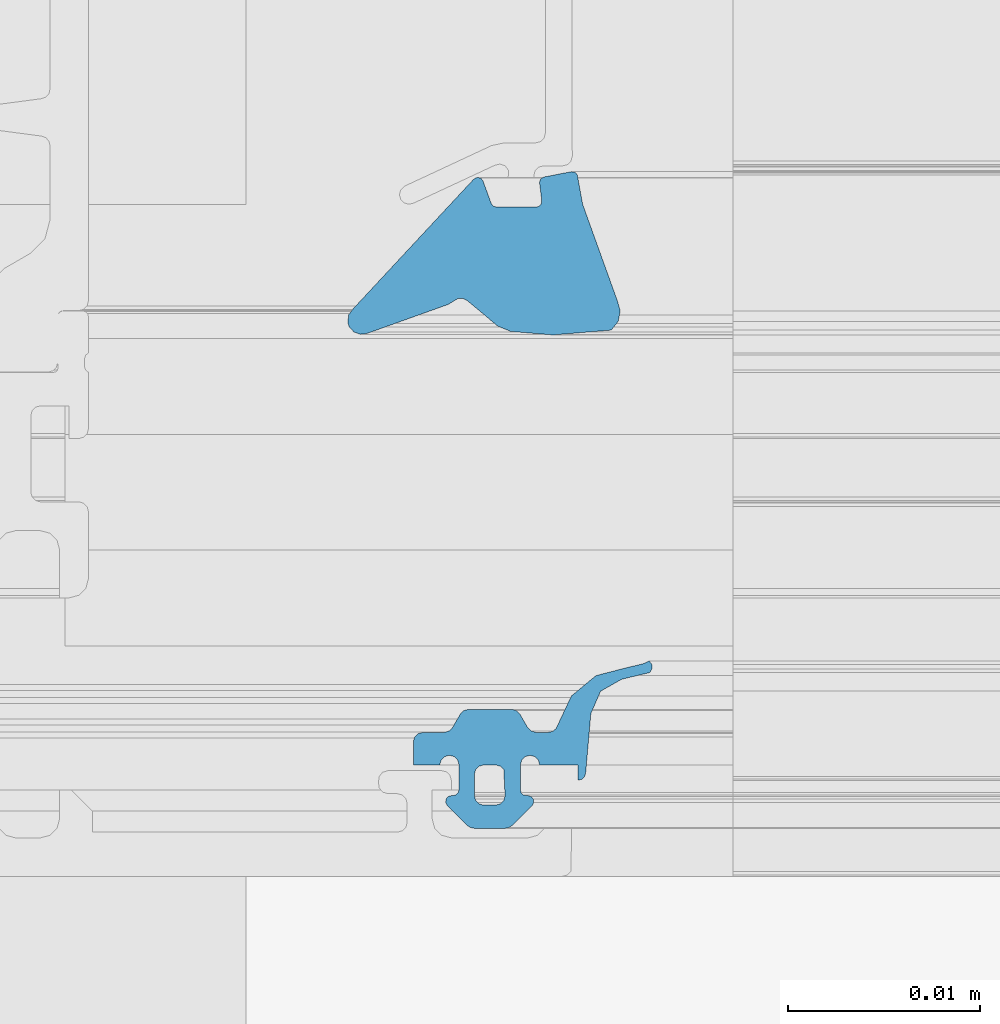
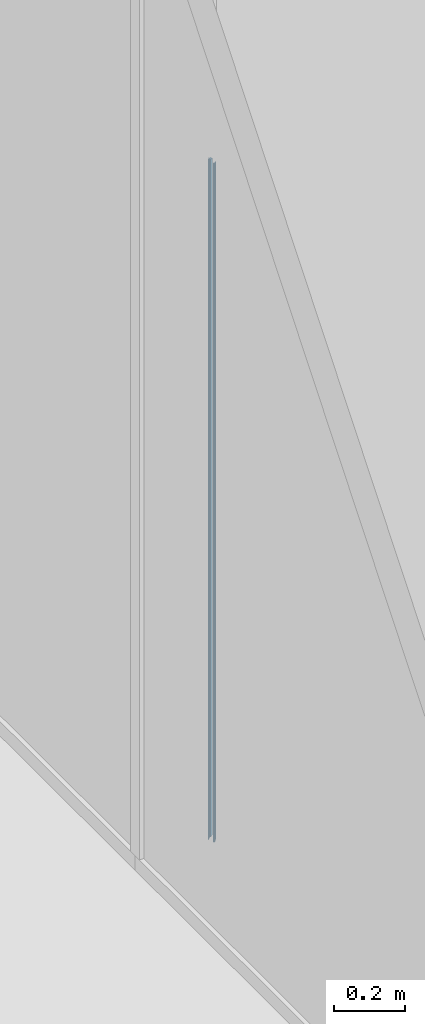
# One storey, part 17 of 69: 1 building element part, 2 elements without a shape of their own.
"""IFC2X3 building model written with IfcOpenShell, lengths in millimetres."""

from ifc_helpers import new_model, entity, si_unit, converted_unit, derived_unit, money_unit, direction, frame, origin_with_axes, place, context, subcontext, project, spatial, faceted_brep, material, type_object, element, aggregate, save


model = new_model("IFC2X3")

# Units and contexts
model_context = context("Model", 3, precision=0.01, world=origin_with_axes(), true_north=direction((0.0, 1.0)))
body_context = subcontext(model_context, "Body", "Model", "MODEL_VIEW")
ifc_project = project(units=[si_unit("LENGTHUNIT", "METRE", prefix="MILLI"), si_unit("AREAUNIT", "SQUARE_METRE"), si_unit("VOLUMEUNIT", "CUBIC_METRE"), converted_unit("PLANEANGLEUNIT", "DEGREE", entity("IfcPlaneAngleMeasure", 0.0174532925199), si_unit("PLANEANGLEUNIT", "RADIAN"), dimensions=[0, 0, 0, 0, 0, 0, 0]), si_unit("SOLIDANGLEUNIT", "STERADIAN"), money_unit("EUR"), converted_unit("TIMEUNIT", "Year", entity("IfcTimeMeasure", 31556926.0), si_unit("TIMEUNIT", "SECOND"), dimensions=[0, 0, 1, 0, 0, 0, 0]), si_unit("MASSUNIT", "GRAM", prefix="KILO"), si_unit("THERMODYNAMICTEMPERATUREUNIT", "DEGREE_CELSIUS"), si_unit("LUMINOUSINTENSITYUNIT", "LUMEN"), si_unit("ENERGYUNIT", "JOULE", prefix="MEGA"), derived_unit("THERMALCONDUCTANCEUNIT", [(si_unit("POWERUNIT", "WATT"), 1), (si_unit("LENGTHUNIT", "METRE"), -1), (si_unit("THERMODYNAMICTEMPERATUREUNIT", "KELVIN"), -1)]), derived_unit("SPECIFICHEATCAPACITYUNIT", [(si_unit("ENERGYUNIT", "JOULE"), 1), (si_unit("MASSUNIT", "GRAM", prefix="KILO"), -1), (si_unit("THERMODYNAMICTEMPERATUREUNIT", "KELVIN"), -1)]), derived_unit("MASSDENSITYUNIT", [(si_unit("MASSUNIT", "GRAM", prefix="KILO"), 1), (si_unit("VOLUMEUNIT", "CUBIC_METRE"), -1)])], contexts=[model_context])

# Site, building, storey
site_placement = place(None, origin_with_axes())
site = spatial("IfcSite", under=ifc_project, at=site_placement, Name="Puškini 31, Narva", CompositionType="ELEMENT")
building_placement = place(site_placement, origin_with_axes())
building = spatial("IfcBuilding", under=site, at=building_placement, Name="Narva Riigigümnaasium", CompositionType="ELEMENT")
storey_placement = place(building_placement, origin_with_axes())
storey = spatial("IfcBuildingStorey", under=building, at=storey_placement, Name="1.korrus 0.00", CompositionType="ELEMENT", Elevation=0.0)

# Curtain wall, member, building element part
curtain_wall_type = type_object("IfcCurtainWallType", Name="Curtain Wall Type", PredefinedType="NOTDEFINED")
curtain_wall_placement = place(storey_placement, frame((18229.9603698, 152620.000001, -0.397158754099), z_axis=(0.0, 0.0, 1.0), x_axis=(1.0, 0.0, 0.0)))
curtain_wall = element("IfcCurtainWall", 1, at=curtain_wall_placement, inside=storey, type_object=curtain_wall_type, Name="G-KLF-01-1")
member_type = type_object("IfcMemberType", Name="61 x 45", PredefinedType="MULLION")
member_placement = place(curtain_wall_placement, frame((-2170.96034334, 0.0, 0.0), z_axis=(0.0, 0.0, 1.0), x_axis=(1.0, 0.0, 0.0)))
member = element("IfcMember", 2, at=member_placement, type_object=member_type, Name="G-SKLF-08-raam", ObjectType="MULLION")
aggregate(curtain_wall, [member])
ifc_material = material(Name="Membraan - Veekindel")
building_element_part_placement = place(member_placement, origin_with_axes())
building_element_part = element("IfcBuildingElementPart", 3, at=building_element_part_placement, material=ifc_material, Name="Membraan - Veekindel", context=body_context, shape_type="Brep", body=[
    faceted_brep([(59.5800222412, -34.73794757, 59.5800222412), (61.0413385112, -34.3890442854, 61.0413385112), (61.0413385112, -34.3890442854, 2400.00003439), (59.5800222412, -34.73794757, 2400.00003439), (58.4755028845, -35.3628499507, 58.4755028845), (57.9693613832, -36.5265882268, 57.9693613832), (57.7000324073, -39.5999584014, 57.7000324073), (57.6464370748, -39.7999717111, 57.6464370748), (57.5000161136, -39.9463912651, 57.5000161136), (57.3000022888, -39.9999846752, 57.3000022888), (57.3000022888, -39.1999494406, 57.3000022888), (55.3000210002, -39.1999606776, 55.3000210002), (55.2330337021, -38.9499606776, 55.2330337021), (55.0500210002, -38.7669479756, 55.0500210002), (54.8000210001, -38.6999606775, 54.8000210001), (54.5500210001, -38.7669479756, 54.5500210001), (54.3670082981, -38.9499606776, 54.3670082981), (54.300021, -39.1999606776, 54.300021), (54.300021, -40.4999366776, 54.300021), (54.3402133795, -40.6499366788, 54.3402133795), (54.4500210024, -40.7597443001, 54.4500210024), (54.6000210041, -40.7999366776, 54.6000210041), (54.7000173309, -40.7999366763, 54.7000173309), (54.866675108, -40.850483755, 54.866675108), (54.9771753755, -40.9850924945, 54.9771753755), (54.9942836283, -41.1584047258, 54.9942836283), (54.9122350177, -41.3120206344, 54.9122350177), (53.8716106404, -42.3533776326, 53.8716106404), (53.7093558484, -42.4618547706, 53.7093558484), (53.517932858, -42.4999486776, 53.517932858), (51.8818844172, -42.4999486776, 51.8818844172), (51.6904310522, -42.4618421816, 51.6904310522), (51.5281601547, -42.3533311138, 51.5281601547), (50.4878083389, -41.3119729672, 50.4878083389), (50.4057850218, -41.1583618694, 50.4057850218), (50.4229059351, -40.9850671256, 50.4229059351), (50.5334025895, -40.8504763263, 50.5334025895), (50.7000457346, -40.7999366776, 50.7000457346), (50.80004, -40.7999366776, 50.80004), (50.95004, -40.7597442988, 50.95004), (51.0598476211, -40.6499366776, 51.0598476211), (51.10004, -40.4999366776, 51.10004), (51.10004, -39.1999550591, 51.10004), (51.0330541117, -38.9499546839, 51.0330541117), (50.8500424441, -38.7669409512, 50.8500424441), (50.6000428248, -38.699952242, 50.6000428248), (50.3500424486, -38.7669381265, 50.3500424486), (50.1670287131, -38.9499497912, 50.1670287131), (50.10004, -39.1999494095, 50.10004), (48.7206527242, -39.1999494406, 48.7206527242), (48.7206527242, -38.0023809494, 48.7206527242), (48.7876400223, -37.7523809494, 48.7876400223), (48.9706527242, -37.5693682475, 48.9706527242), (49.2206527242, -37.5023809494, 49.2206527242), (50.3319753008, -37.5023809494, 50.3319753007), (50.5819753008, -37.4353936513, 50.5819753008), (50.7649880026, -37.2523809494, 50.7649880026), (51.1691331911, -36.5523809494, 51.1691331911), (51.352145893, -36.3693682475, 51.352145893), (51.602145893, -36.3023809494, 51.602145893), (53.8391557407, -36.3023809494, 53.8391557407), (54.0891557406, -36.3693682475, 54.0891557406), (54.2721684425, -36.5523809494, 54.2721684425), (54.676313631, -37.2523809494, 54.676313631), (54.8593263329, -37.4353936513, 54.8593263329), (55.1093263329, -37.5023809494, 55.1093263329), (55.7607444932, -37.5023809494, 55.7607444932), (55.9795989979, -37.4519392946, 55.9795989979), (56.1542959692, -37.3107917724, 56.1542959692), (56.2495873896, -37.1074172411, 56.2495873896), (56.9567944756, -35.6067920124, 56.9567944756), (58.2346494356, -34.5489145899, 58.2346494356), (59.8409257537, -34.1343131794, 59.8409257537), (60.7381535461, -33.9217644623, 60.7381535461), (61.0108941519, -33.784859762, 61.0108941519), (61.1423164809, -33.9681748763, 61.1423164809), (61.1536677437, -34.1934467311, 61.1536677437), (53.5000340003, -40.7999553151, 53.5000340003), (53.433048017, -39.44993177, 53.433048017), (53.2500389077, -39.2669226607, 53.2500389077), (53.0000438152, -39.1999366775, 53.0000438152), (52.4000171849, -39.1999366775, 52.4000171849), (52.1500220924, -39.2669226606, 52.1500220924), (51.9670129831, -39.4499317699, 51.9670129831), (51.9000269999, -39.6999268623, 51.9000269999), (51.9000269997, -40.799955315, 51.9000269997), (51.9670118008, -41.0499459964, 51.9670118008), (52.150017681, -41.2329518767, 52.150017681), (52.4000083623, -41.299936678, 52.4000083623), (53.0000526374, -41.299936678, 53.0000526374), (53.2500433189, -41.2329518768, 53.2500433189), (53.4330491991, -41.0499459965, 53.4330491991), (61.1536677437, -34.1934467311, 2400.00003439), (61.1423164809, -33.9681748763, 2400.00003439), (61.0108941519, -33.784859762, 2400.00003439), (60.7381535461, -33.9217644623, 2400.00003439), (59.8409257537, -34.1343131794, 2400.00003439), (58.2346494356, -34.5489145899, 2400.00003439), (56.9567944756, -35.6067920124, 2400.00003439), (56.2495873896, -37.1074172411, 2400.00003439), (56.1542959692, -37.3107917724, 2400.00003439), (55.9795989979, -37.4519392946, 2400.00003439), (55.7607444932, -37.5023809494, 2400.00003439), (55.1093263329, -37.5023809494, 2400.00003439), (54.8593263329, -37.4353936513, 2400.00003439), (54.676313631, -37.2523809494, 2400.00003439), (54.2721684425, -36.5523809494, 2400.00003439), (54.0891557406, -36.3693682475, 2400.00003439), (53.8391557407, -36.3023809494, 2400.00003439), (51.602145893, -36.3023809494, 2400.00003439), (51.352145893, -36.3693682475, 2400.00003439), (51.1691331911, -36.5523809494, 2400.00003439), (50.7649880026, -37.2523809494, 2400.00003439), (50.5819753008, -37.4353936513, 2400.00003439), (50.3319753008, -37.5023809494, 2400.00003439), (49.2206527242, -37.5023809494, 2400.00003439), (48.9706527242, -37.5693682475, 2400.00003439), (48.7876400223, -37.7523809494, 2400.00003439), (48.7206527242, -38.0023809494, 2400.00003439), (48.7206527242, -39.1999494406, 2400.00003439), (50.10004, -39.1999494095, 2400.00003439), (50.1670287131, -38.9499497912, 2400.00003439), (50.3500424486, -38.7669381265, 2400.00003439), (50.6000428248, -38.699952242, 2400.00003439), (50.8500424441, -38.7669409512, 2400.00003439), (51.0330541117, -38.9499546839, 2400.00003439), (51.10004, -39.1999550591, 2400.00003439), (51.10004, -40.4999366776, 2400.00003439), (51.0598476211, -40.6499366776, 2400.00003439), (50.95004, -40.7597442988, 2400.00003439), (50.80004, -40.7999366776, 2400.00003439), (50.7000457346, -40.7999366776, 2400.00003439), (50.5334025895, -40.8504763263, 2400.00003439), (50.4229059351, -40.9850671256, 2400.00003439), (50.4057850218, -41.1583618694, 2400.00003439), (50.4878083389, -41.3119729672, 2400.00003439), (51.5281601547, -42.3533311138, 2400.00003439), (51.6904310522, -42.4618421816, 2400.00003439), (51.8818844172, -42.4999486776, 2400.00003439), (53.517932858, -42.4999486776, 2400.00003439), (53.7093558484, -42.4618547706, 2400.00003439), (53.8716106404, -42.3533776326, 2400.00003439), (54.9122350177, -41.3120206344, 2400.00003439), (54.9942836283, -41.1584047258, 2400.00003439), (54.9771753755, -40.9850924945, 2400.00003439), (54.866675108, -40.850483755, 2400.00003439), (54.7000173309, -40.7999366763, 2400.00003439), (54.6000210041, -40.7999366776, 2400.00003439), (54.4500210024, -40.7597443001, 2400.00003439), (54.3402133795, -40.6499366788, 2400.00003439), (54.300021, -40.4999366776, 2400.00003439), (54.300021, -39.1999606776, 2400.00003439), (54.3670082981, -38.9499606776, 2400.00003439), (54.5500210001, -38.7669479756, 2400.00003439), (54.8000210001, -38.6999606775, 2400.00003439), (55.0500210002, -38.7669479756, 2400.00003439), (55.2330337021, -38.9499606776, 2400.00003439), (55.3000210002, -39.1999606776, 2400.00003439), (57.3000022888, -39.1999494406, 2400.00003439), (57.3000022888, -39.9999846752, 2400.00003439), (57.5000161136, -39.9463912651, 2400.00003439), (57.6464370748, -39.7999717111, 2400.00003439), (57.7000324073, -39.5999584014, 2400.00003439), (57.9693613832, -36.5265882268, 2400.00003439), (58.4755028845, -35.3628499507, 2400.00003439), (53.5000340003, -40.7999553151, 2400.00003439), (53.4330491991, -41.0499459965, 2400.00003439), (53.2500433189, -41.2329518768, 2400.00003439), (53.0000526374, -41.299936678, 2400.00003439), (52.4000083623, -41.299936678, 2400.00003439), (52.150017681, -41.2329518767, 2400.00003439), (51.9670118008, -41.0499459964, 2400.00003439), (51.9000269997, -40.799955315, 2400.00003439), (51.9000269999, -39.6999268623, 2400.00003439), (51.9670129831, -39.4499317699, 2400.00003439), (52.1500220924, -39.2669226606, 2400.00003439), (52.4000171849, -39.1999366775, 2400.00003439), (53.0000438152, -39.1999366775, 2400.00003439), (53.2500389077, -39.2669226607, 2400.00003439), (53.433048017, -39.44993177, 2400.00003439)], [[[0, 1, 2, 3]], [[1, 0, 4, 5, 6, 7, 8, 9, 10, 11, 12, 13, 14, 15, 16, 17, 18, 19, 20, 21, 22, 23, 24, 25, 26, 27, 28, 29, 30, 31, 32, 33, 34, 35, 36, 37, 38, 39, 40, 41, 42, 43, 44, 45, 46, 47, 48, 49, 50, 51, 52, 53, 54, 55, 56, 57, 58, 59, 60, 61, 62, 63, 64, 65, 66, 67, 68, 69, 70, 71, 72, 73, 74, 75, 76], [77, 78, 79, 80, 81, 82, 83, 84, 85, 86, 87, 88, 89, 90, 91]], [[1, 76, 92, 2]], [[2, 92, 93, 94, 95, 96, 97, 98, 99, 100, 101, 102, 103, 104, 105, 106, 107, 108, 109, 110, 111, 112, 113, 114, 115, 116, 117, 118, 119, 120, 121, 122, 123, 124, 125, 126, 127, 128, 129, 130, 131, 132, 133, 134, 135, 136, 137, 138, 139, 140, 141, 142, 143, 144, 145, 146, 147, 148, 149, 150, 151, 152, 153, 154, 155, 156, 157, 158, 159, 160, 161, 162, 163, 164, 3], [165, 166, 167, 168, 169, 170, 171, 172, 173, 174, 175, 176, 177, 178, 179]], [[4, 0, 3, 164]], [[5, 4, 164, 163]], [[6, 5, 163, 162]], [[7, 6, 162, 161]], [[8, 7, 161, 160]], [[9, 8, 160, 159]], [[10, 9, 159, 158]], [[11, 10, 158, 157]], [[12, 11, 157, 156]], [[13, 12, 156, 155]], [[14, 13, 155, 154]], [[15, 14, 154, 153]], [[16, 15, 153, 152]], [[17, 16, 152, 151]], [[18, 17, 151, 150]], [[19, 18, 150, 149]], [[20, 19, 149, 148]], [[21, 20, 148, 147]], [[22, 21, 147, 146]], [[23, 22, 146, 145]], [[24, 23, 145, 144]], [[25, 24, 144, 143]], [[26, 25, 143, 142]], [[27, 26, 142, 141]], [[28, 27, 141, 140]], [[29, 28, 140, 139]], [[30, 29, 139, 138]], [[31, 30, 138, 137]], [[32, 31, 137, 136]], [[33, 32, 136, 135]], [[34, 33, 135, 134]], [[35, 34, 134, 133]], [[36, 35, 133, 132]], [[37, 36, 132, 131]], [[38, 37, 131, 130]], [[39, 38, 130, 129]], [[40, 39, 129, 128]], [[41, 40, 128, 127]], [[42, 41, 127, 126]], [[43, 42, 126, 125]], [[44, 43, 125, 124]], [[45, 44, 124, 123]], [[46, 45, 123, 122]], [[47, 46, 122, 121]], [[48, 47, 121, 120]], [[49, 48, 120, 119]], [[50, 49, 119, 118]], [[51, 50, 118, 117]], [[52, 51, 117, 116]], [[53, 52, 116, 115]], [[54, 53, 115, 114]], [[55, 54, 114, 113]], [[56, 55, 113, 112]], [[57, 56, 112, 111]], [[58, 57, 111, 110]], [[59, 58, 110, 109]], [[60, 59, 109, 108]], [[61, 60, 108, 107]], [[62, 61, 107, 106]], [[63, 62, 106, 105]], [[64, 63, 105, 104]], [[65, 64, 104, 103]], [[66, 65, 103, 102]], [[67, 66, 102, 101]], [[68, 67, 101, 100]], [[69, 68, 100, 99]], [[70, 69, 99, 98]], [[71, 70, 98, 97]], [[72, 71, 97, 96]], [[73, 72, 96, 95]], [[74, 73, 95, 94]], [[75, 74, 94, 93]], [[76, 75, 93, 92]], [[78, 77, 165, 179]], [[79, 78, 179, 178]], [[80, 79, 178, 177]], [[81, 80, 177, 176]], [[82, 81, 176, 175]], [[83, 82, 175, 174]], [[84, 83, 174, 173]], [[85, 84, 173, 172]], [[86, 85, 172, 171]], [[87, 86, 171, 170]], [[88, 87, 170, 169]], [[89, 88, 169, 168]], [[90, 89, 168, 167]], [[91, 90, 167, 166]], [[77, 91, 166, 165]]]),
    faceted_brep([(55.9926715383, -16.8063498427, 55.9926715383), (59.0307115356, -16.554149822, 59.0307115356), (59.0307115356, -16.554149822, 2400.00003439), (55.9926715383, -16.8063498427, 2400.00003439), (53.7899070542, -16.6230039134, 53.7899070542), (53.1225200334, -16.3483062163, 53.1225200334), (51.5205025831, -15.0099586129, 51.5205025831), (51.3011765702, -14.8998814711, 51.3011765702), (51.0558924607, -14.9074036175, 51.0558924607), (50.8437237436, -15.0307134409, 50.8437237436), (50.5536994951, -15.2121179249, 50.5536994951), (46.298307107, -16.7340705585, 46.298307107), (45.950966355, -16.7718696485, 45.950966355), (45.6241929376, -16.6482027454, 45.6241929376), (45.3889077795, -16.3899097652, 45.3889077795), (45.3195226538, -16.2152275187, 45.3195226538), (45.3418968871, -15.7688623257, 45.3418968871), (45.6142070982, -15.4144760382, 45.6142070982), (51.8169217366, -8.74599822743, 51.8169217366), (51.938943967, -8.6326446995, 51.938943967), (52.1026310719, -8.60190419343, 52.1026310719), (52.2574645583, -8.66326410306, 52.2574645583), (52.3556584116, -8.79778701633, 52.3556584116), (52.7761212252, -9.95299910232, 52.7761212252), (52.8859560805, -10.0961386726, 52.8859560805), (53.0580290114, -10.1503930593, 53.0580290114), (55.1123574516, -10.1503930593, 55.1123574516), (55.2731258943, -10.1036784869, 55.2731258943), (55.3838261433, -9.97808311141, 55.3838261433), (55.4099827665, -9.81272116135, 55.4099827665), (55.2940485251, -8.85237785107, 55.2940485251), (55.3307332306, -8.7275382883, 55.3307332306), (55.4168250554, -8.6299735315, 55.4168250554), (55.5361285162, -8.57803733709, 55.5361285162), (56.9361285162, -8.30590490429, 56.9361285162), (57.0661058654, -8.3093438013, 57.0661058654), (57.1824204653, -8.36745448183, 57.1824204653), (57.2632233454, -8.46932121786, 57.2632233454), (57.5418652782, -10.0035930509, 57.5418652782), (59.3405112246, -15.0012955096, 59.3405112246), (59.5001582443, -15.5494067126, 59.5001582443), (59.3884652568, -16.1092618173, 59.3884652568), (59.3884652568, -16.1092618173, 2400.00003439), (59.5001582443, -15.5494067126, 2400.00003439), (59.3405112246, -15.0012955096, 2400.00003439), (57.5418652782, -10.0035930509, 2400.00003439), (57.2632233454, -8.46932121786, 2400.00003439), (57.1824204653, -8.36745448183, 2400.00003439), (57.0661058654, -8.3093438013, 2400.00003439), (56.9361285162, -8.30590490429, 2400.00003439), (55.5361285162, -8.57803733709, 2400.00003439), (55.4168250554, -8.6299735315, 2400.00003439), (55.3307332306, -8.7275382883, 2400.00003439), (55.2940485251, -8.85237785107, 2400.00003439), (55.4099827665, -9.81272116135, 2400.00003439), (55.3838261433, -9.97808311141, 2400.00003439), (55.2731258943, -10.1036784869, 2400.00003439), (55.1123574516, -10.1503930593, 2400.00003439), (53.0580290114, -10.1503930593, 2400.00003439), (52.8859560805, -10.0961386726, 2400.00003439), (52.7761212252, -9.95299910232, 2400.00003439), (52.3556584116, -8.79778701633, 2400.00003439), (52.2574645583, -8.66326410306, 2400.00003439), (52.1026310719, -8.60190419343, 2400.00003439), (51.938943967, -8.6326446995, 2400.00003439), (51.8169217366, -8.74599822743, 2400.00003439), (45.6142070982, -15.4144760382, 2400.00003439), (45.3418968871, -15.7688623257, 2400.00003439), (45.3195226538, -16.2152275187, 2400.00003439), (45.3889077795, -16.3899097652, 2400.00003439), (45.6241929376, -16.6482027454, 2400.00003439), (45.950966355, -16.7718696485, 2400.00003439), (46.298307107, -16.7340705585, 2400.00003439), (50.5536994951, -15.2121179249, 2400.00003439), (50.8437237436, -15.0307134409, 2400.00003439), (51.0558924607, -14.9074036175, 2400.00003439), (51.3011765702, -14.8998814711, 2400.00003439), (51.5205025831, -15.0099586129, 2400.00003439), (53.1225200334, -16.3483062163, 2400.00003439), (53.7899070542, -16.6230039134, 2400.00003439)], [[[0, 1, 2, 3]], [[1, 0, 4, 5, 6, 7, 8, 9, 10, 11, 12, 13, 14, 15, 16, 17, 18, 19, 20, 21, 22, 23, 24, 25, 26, 27, 28, 29, 30, 31, 32, 33, 34, 35, 36, 37, 38, 39, 40, 41]], [[1, 41, 42, 2]], [[2, 42, 43, 44, 45, 46, 47, 48, 49, 50, 51, 52, 53, 54, 55, 56, 57, 58, 59, 60, 61, 62, 63, 64, 65, 66, 67, 68, 69, 70, 71, 72, 73, 74, 75, 76, 77, 78, 79, 3]], [[4, 0, 3, 79]], [[5, 4, 79, 78]], [[6, 5, 78, 77]], [[7, 6, 77, 76]], [[8, 7, 76, 75]], [[9, 8, 75, 74]], [[10, 9, 74, 73]], [[11, 10, 73, 72]], [[12, 11, 72, 71]], [[13, 12, 71, 70]], [[14, 13, 70, 69]], [[15, 14, 69, 68]], [[16, 15, 68, 67]], [[17, 16, 67, 66]], [[18, 17, 66, 65]], [[19, 18, 65, 64]], [[20, 19, 64, 63]], [[21, 20, 63, 62]], [[22, 21, 62, 61]], [[23, 22, 61, 60]], [[24, 23, 60, 59]], [[25, 24, 59, 58]], [[26, 25, 58, 57]], [[27, 26, 57, 56]], [[28, 27, 56, 55]], [[29, 28, 55, 54]], [[30, 29, 54, 53]], [[31, 30, 53, 52]], [[32, 31, 52, 51]], [[33, 32, 51, 50]], [[34, 33, 50, 49]], [[35, 34, 49, 48]], [[36, 35, 48, 47]], [[37, 36, 47, 46]], [[38, 37, 46, 45]], [[39, 38, 45, 44]], [[40, 39, 44, 43]], [[41, 40, 43, 42]]]),
])
aggregate(member, [building_element_part])

save(model, "model.ifc")
